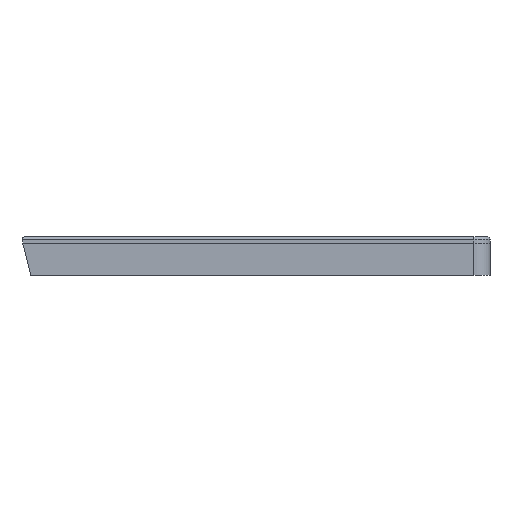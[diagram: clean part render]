
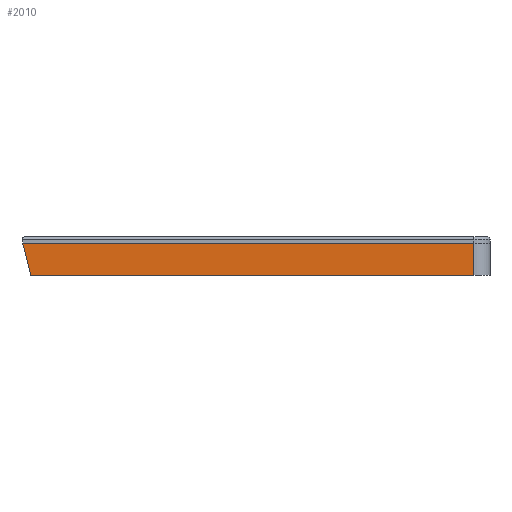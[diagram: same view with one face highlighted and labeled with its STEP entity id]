
A CAD part, front view. The second image highlights one B-rep face of the part: STEP entity #2010.
In plain terms, the highlighted planar face has unit normal (0, -1, 0).
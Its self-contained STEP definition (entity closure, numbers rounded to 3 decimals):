
#70 = PLANE('',#71);
#71 = AXIS2_PLACEMENT_3D('',#72,#73,#74);
#72 = CARTESIAN_POINT('',(98.5,-38.,6.));
#73 = DIRECTION('',(0.,0.,1.));
#74 = DIRECTION('',(-1.,0.,0.));
#98 = CYLINDRICAL_SURFACE('',#99,5.);
#99 = AXIS2_PLACEMENT_3D('',#100,#101,#102);
#100 = CARTESIAN_POINT('',(93.5,-33.,16.));
#101 = DIRECTION('',(0.,0.,-1.));
#102 = DIRECTION('',(1.,0.,0.));
#126 = PLANE('',#127);
#127 = AXIS2_PLACEMENT_3D('',#128,#129,#130);
#128 = CARTESIAN_POINT('',(-47.071,-38.,16.));
#129 = DIRECTION('',(0.,0.,-1.));
#130 = DIRECTION('',(1.,0.,0.));
#167 = EDGE_CURVE('',#168,#170,#172,.T.);
#168 = VERTEX_POINT('',#169);
#169 = CARTESIAN_POINT('',(93.5,-38.,6.));
#170 = VERTEX_POINT('',#171);
#171 = CARTESIAN_POINT('',(-44.5,-38.,6.));
#172 = SURFACE_CURVE('',#173,(#177,#184),.PCURVE_S1.);
#173 = LINE('',#174,#175);
#174 = CARTESIAN_POINT('',(98.5,-38.,6.));
#175 = VECTOR('',#176,1.);
#176 = DIRECTION('',(-1.,0.,0.));
#177 = PCURVE('',#70,#178);
#178 = DEFINITIONAL_REPRESENTATION('',(#179),#183);
#179 = LINE('',#180,#181);
#180 = CARTESIAN_POINT('',(0.,0.));
#181 = VECTOR('',#182,1.);
#182 = DIRECTION('',(1.,0.));
#183 = ( GEOMETRIC_REPRESENTATION_CONTEXT(2) 
PARAMETRIC_REPRESENTATION_CONTEXT() REPRESENTATION_CONTEXT('2D SPACE',''
  ) );
#184 = PCURVE('',#185,#190);
#185 = PLANE('',#186);
#186 = AXIS2_PLACEMENT_3D('',#187,#188,#189);
#187 = CARTESIAN_POINT('',(26.276,-38.,11.042));
#188 = DIRECTION('',(0.,1.,0.));
#189 = DIRECTION('',(0.,0.,1.));
#190 = DEFINITIONAL_REPRESENTATION('',(#191),#195);
#191 = LINE('',#192,#193);
#192 = CARTESIAN_POINT('',(-5.042,72.224));
#193 = VECTOR('',#194,1.);
#194 = DIRECTION('',(0.,-1.));
#195 = ( GEOMETRIC_REPRESENTATION_CONTEXT(2) 
PARAMETRIC_REPRESENTATION_CONTEXT() REPRESENTATION_CONTEXT('2D SPACE',''
  ) );
#292 = PLANE('',#293);
#293 = AXIS2_PLACEMENT_3D('',#294,#295,#296);
#294 = CARTESIAN_POINT('',(-44.5,-38.,6.));
#295 = DIRECTION('',(0.968,0.,0.249));
#296 = DIRECTION('',(-0.249,0.,0.968)
  );
#1258 = VERTEX_POINT('',#1259);
#1259 = CARTESIAN_POINT('',(93.5,-38.,16.));
#1281 = EDGE_CURVE('',#1258,#168,#1282,.T.);
#1282 = SURFACE_CURVE('',#1283,(#1287,#1294),.PCURVE_S1.);
#1283 = LINE('',#1284,#1285);
#1284 = CARTESIAN_POINT('',(93.5,-38.,16.));
#1285 = VECTOR('',#1286,1.);
#1286 = DIRECTION('',(0.,0.,-1.));
#1287 = PCURVE('',#98,#1288);
#1288 = DEFINITIONAL_REPRESENTATION('',(#1289),#1293);
#1289 = LINE('',#1290,#1291);
#1290 = CARTESIAN_POINT('',(1.571,0.));
#1291 = VECTOR('',#1292,1.);
#1292 = DIRECTION('',(0.,1.));
#1293 = ( GEOMETRIC_REPRESENTATION_CONTEXT(2) 
PARAMETRIC_REPRESENTATION_CONTEXT() REPRESENTATION_CONTEXT('2D SPACE',''
  ) );
#1294 = PCURVE('',#185,#1295);
#1295 = DEFINITIONAL_REPRESENTATION('',(#1296),#1300);
#1296 = LINE('',#1297,#1298);
#1297 = CARTESIAN_POINT('',(4.958,67.224));
#1298 = VECTOR('',#1299,1.);
#1299 = DIRECTION('',(-1.,0.));
#1300 = ( GEOMETRIC_REPRESENTATION_CONTEXT(2) 
PARAMETRIC_REPRESENTATION_CONTEXT() REPRESENTATION_CONTEXT('2D SPACE',''
  ) );
#1361 = EDGE_CURVE('',#1362,#1258,#1364,.T.);
#1362 = VERTEX_POINT('',#1363);
#1363 = CARTESIAN_POINT('',(-47.071,-38.,16.));
#1364 = SURFACE_CURVE('',#1365,(#1369,#1376),.PCURVE_S1.);
#1365 = LINE('',#1366,#1367);
#1366 = CARTESIAN_POINT('',(-47.071,-38.,16.));
#1367 = VECTOR('',#1368,1.);
#1368 = DIRECTION('',(1.,0.,0.));
#1369 = PCURVE('',#126,#1370);
#1370 = DEFINITIONAL_REPRESENTATION('',(#1371),#1375);
#1371 = LINE('',#1372,#1373);
#1372 = CARTESIAN_POINT('',(0.,0.));
#1373 = VECTOR('',#1374,1.);
#1374 = DIRECTION('',(1.,0.));
#1375 = ( GEOMETRIC_REPRESENTATION_CONTEXT(2) 
PARAMETRIC_REPRESENTATION_CONTEXT() REPRESENTATION_CONTEXT('2D SPACE',''
  ) );
#1376 = PCURVE('',#185,#1377);
#1377 = DEFINITIONAL_REPRESENTATION('',(#1378),#1382);
#1378 = LINE('',#1379,#1380);
#1379 = CARTESIAN_POINT('',(4.958,-73.347));
#1380 = VECTOR('',#1381,1.);
#1381 = DIRECTION('',(0.,1.));
#1382 = ( GEOMETRIC_REPRESENTATION_CONTEXT(2) 
PARAMETRIC_REPRESENTATION_CONTEXT() REPRESENTATION_CONTEXT('2D SPACE',''
  ) );
#2010 = ADVANCED_FACE('',(#2011),#185,.F.);
#2011 = FACE_BOUND('',#2012,.F.);
#2012 = EDGE_LOOP('',(#2013,#2014,#2035,#2036));
#2013 = ORIENTED_EDGE('',*,*,#167,.T.);
#2014 = ORIENTED_EDGE('',*,*,#2015,.T.);
#2015 = EDGE_CURVE('',#170,#1362,#2016,.T.);
#2016 = SURFACE_CURVE('',#2017,(#2021,#2028),.PCURVE_S1.);
#2017 = LINE('',#2018,#2019);
#2018 = CARTESIAN_POINT('',(-44.5,-38.,6.));
#2019 = VECTOR('',#2020,1.);
#2020 = DIRECTION('',(-0.249,0.,0.968)
  );
#2021 = PCURVE('',#185,#2022);
#2022 = DEFINITIONAL_REPRESENTATION('',(#2023),#2027);
#2023 = LINE('',#2024,#2025);
#2024 = CARTESIAN_POINT('',(-5.042,-70.776));
#2025 = VECTOR('',#2026,1.);
#2026 = DIRECTION('',(0.968,-0.249));
#2027 = ( GEOMETRIC_REPRESENTATION_CONTEXT(2) 
PARAMETRIC_REPRESENTATION_CONTEXT() REPRESENTATION_CONTEXT('2D SPACE',''
  ) );
#2028 = PCURVE('',#292,#2029);
#2029 = DEFINITIONAL_REPRESENTATION('',(#2030),#2034);
#2030 = LINE('',#2031,#2032);
#2031 = CARTESIAN_POINT('',(0.,0.));
#2032 = VECTOR('',#2033,1.);
#2033 = DIRECTION('',(1.,0.));
#2034 = ( GEOMETRIC_REPRESENTATION_CONTEXT(2) 
PARAMETRIC_REPRESENTATION_CONTEXT() REPRESENTATION_CONTEXT('2D SPACE',''
  ) );
#2035 = ORIENTED_EDGE('',*,*,#1361,.T.);
#2036 = ORIENTED_EDGE('',*,*,#1281,.T.);
